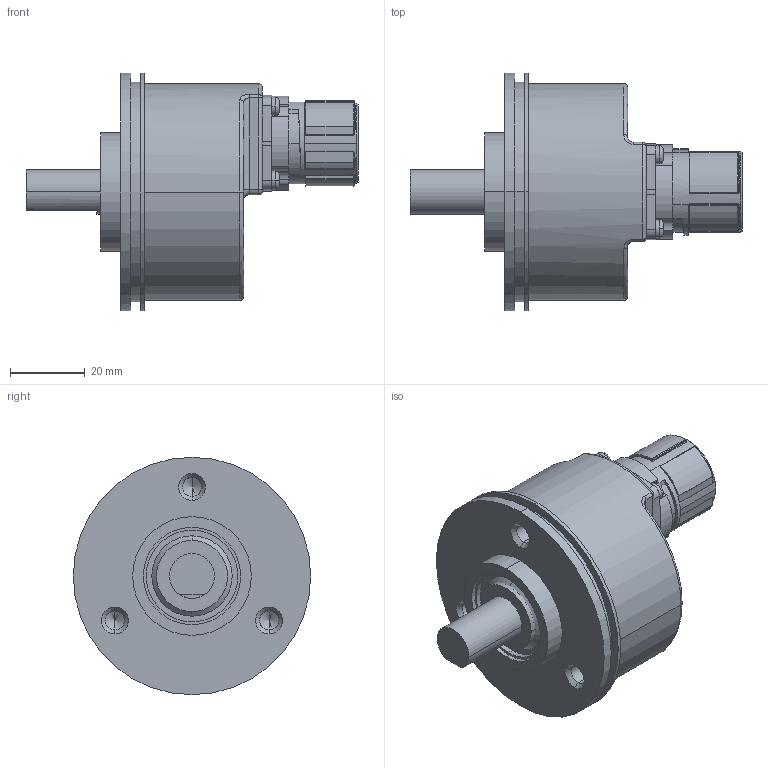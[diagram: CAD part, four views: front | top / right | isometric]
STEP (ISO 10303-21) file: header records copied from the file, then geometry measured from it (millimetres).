
FILE_DESCRIPTION (( 'STEP AP203' ), '1' );
FILE_NAME ('K58I.OXX.XXXXX.XS1V512.6XAC4.step', '2025-12-08T15:34:17', ( '' ), ( '' ), 'SwSTEP 2.0', 'SolidWorks 2021', '' );
FILE_SCHEMA (( 'CONFIG_CONTROL_DESIGN' ));
Length unit declared in the file: millimetre
Products named in the file (1): K58I.OXX.XXXXX.XS1V512.6XAC4
Bounding box: 88.79 x 63.5 x 63.5 mm (x, y, z)
Volume: 137731.7 mm3; surface area: 32253.2 mm2
Topology: 5 solids, 5 shells, 579 faces, 1465 edges, 930 vertices
Faces by surface type: cylinder 233, plane 175, bspline 98, sphere 36, cone 19, torus 18
Entity records: 23282 total; most frequent: CARTESIAN_POINT 9677, ORIENTED_EDGE 2858, DIRECTION 2748, EDGE_CURVE 1429, AXIS2_PLACEMENT_3D 1050, VERTEX_POINT 927, EDGE_LOOP 650, LINE 648
